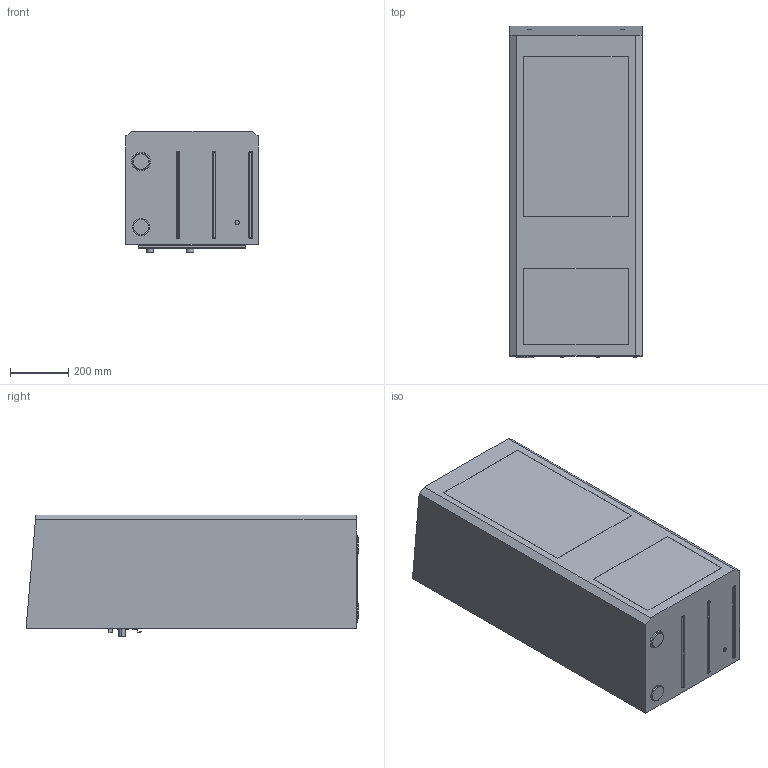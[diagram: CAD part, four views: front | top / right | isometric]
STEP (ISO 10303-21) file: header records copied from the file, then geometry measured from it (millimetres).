
FILE_DESCRIPTION((''),'2;1');
FILE_NAME('MSBR-1_1_2_1_1','2023-12-04T16:30:33',('danielc'),(''),'CREO PARAMETRIC BY PTC INC, 2019080','CREO PARAMETRIC BY PTC INC, 2019080','');
FILE_SCHEMA(('CONFIG_CONTROL_DESIGN','SHAPE_APPEARANCE_LAYERS_GROUPS'));
Length unit declared in the file: metre
Products named in the file (1): MSBR-1_1_2_1_1
Bounding box: 455 x 1141.31 x 419 mm (x, y, z)
Volume: 196738735.6 mm3; surface area: 2277326.4 mm2
Topology: 1 solids, 1 shells, 184 faces, 417 edges, 272 vertices
Faces by surface type: plane 89, cylinder 77, bspline 12, torus 6
Entity records: 5448 total; most frequent: CARTESIAN_POINT 1114, DIRECTION 924, ORIENTED_EDGE 828, EDGE_CURVE 414, AXIS2_PLACEMENT_3D 343, VERTEX_POINT 266, VECTOR 238, LINE 238
